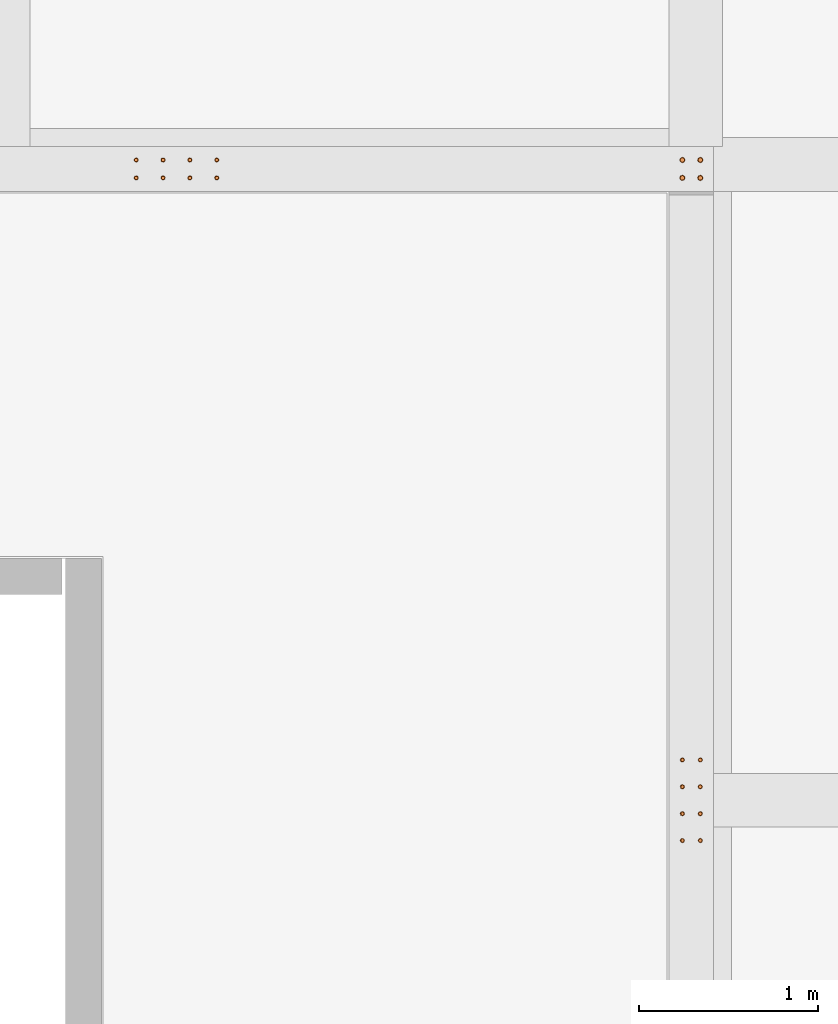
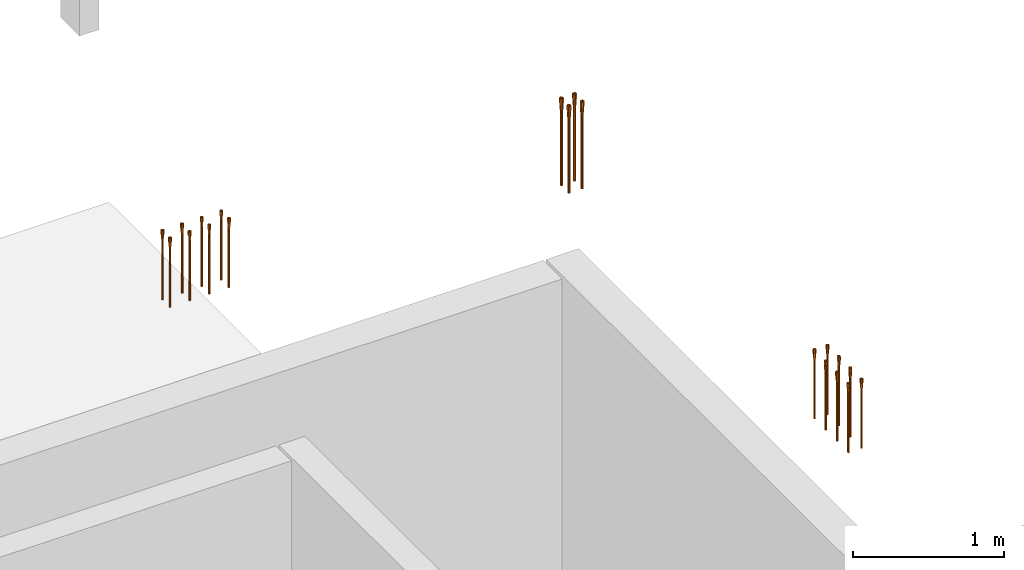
# One storey, part 16 of 16: 20 proxies.
"""IFC2X3 building model written with IfcOpenShell, lengths in millimetres."""

from ifc_helpers import new_model, entity, si_unit, converted_unit, derived_unit, direction, frame, frame_2d, origin, place, context, subcontext, project, spatial, circle, extrude, faceted_brep, source, transform, mapped, type_object, type_shapes, element, save


model = new_model("IFC2X3")

# Units and contexts
model_context = context("Model", 3, precision=0.01, world=origin(), true_north=direction((6.12303176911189e-17, 1.0)))
body_context = subcontext(model_context, "Body", "Model", "MODEL_VIEW")
ifc_project = project(units=[si_unit("LENGTHUNIT", "METRE", prefix="MILLI"), si_unit("AREAUNIT", "SQUARE_METRE"), si_unit("VOLUMEUNIT", "CUBIC_METRE"), converted_unit("PLANEANGLEUNIT", "DEGREE", entity("IfcRatioMeasure", 0.0174532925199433), si_unit("PLANEANGLEUNIT", "RADIAN"), dimensions=[0, 0, 0, 0, 0, 0, 0]), si_unit("MASSUNIT", "GRAM", prefix="KILO"), derived_unit("MASSDENSITYUNIT", [(si_unit("MASSUNIT", "GRAM", prefix="KILO"), 1), (si_unit("LENGTHUNIT", "METRE"), -3)]), si_unit("TIMEUNIT", "SECOND"), si_unit("FREQUENCYUNIT", "HERTZ"), si_unit("THERMODYNAMICTEMPERATUREUNIT", "DEGREE_CELSIUS"), derived_unit("THERMALTRANSMITTANCEUNIT", [(si_unit("MASSUNIT", "GRAM", prefix="KILO"), 1), (si_unit("THERMODYNAMICTEMPERATUREUNIT", "KELVIN"), -1), (si_unit("TIMEUNIT", "SECOND"), -3)]), derived_unit("VOLUMETRICFLOWRATEUNIT", [(si_unit("LENGTHUNIT", "METRE"), 3), (si_unit("TIMEUNIT", "SECOND"), -1)]), si_unit("ELECTRICCURRENTUNIT", "AMPERE"), si_unit("ELECTRICVOLTAGEUNIT", "VOLT"), si_unit("POWERUNIT", "WATT"), si_unit("FORCEUNIT", "NEWTON", prefix="KILO"), si_unit("ILLUMINANCEUNIT", "LUX"), si_unit("LUMINOUSFLUXUNIT", "LUMEN"), si_unit("LUMINOUSINTENSITYUNIT", "CANDELA"), derived_unit("USERDEFINED", [(si_unit("MASSUNIT", "GRAM", prefix="KILO"), -1), (si_unit("LENGTHUNIT", "METRE"), -2), (si_unit("TIMEUNIT", "SECOND"), 3), (si_unit("LUMINOUSFLUXUNIT", "LUMEN"), 1)]), derived_unit("LINEARVELOCITYUNIT", [(si_unit("LENGTHUNIT", "METRE"), 1), (si_unit("TIMEUNIT", "SECOND"), -1)]), si_unit("PRESSUREUNIT", "PASCAL"), derived_unit("USERDEFINED", [(si_unit("LENGTHUNIT", "METRE"), -2), (si_unit("MASSUNIT", "GRAM", prefix="KILO"), 1), (si_unit("TIMEUNIT", "SECOND"), -2)])], contexts=[model_context])

# Site, building, storey
site_placement = place(None, origin())
site = spatial("IfcSite", under=ifc_project, at=site_placement, Name="Default", CompositionType="ELEMENT")
building_placement = place(site_placement, origin())
building = spatial("IfcBuilding", under=site, at=building_placement, Name="niet gebruiken", CompositionType="ELEMENT")
storey_placement = place(building_placement, frame((0.0, 0.0, 183150.0)))
storey = spatial("IfcBuildingStorey", under=building, at=storey_placement, Name="58 achtenvijftigste verdieping", CompositionType="ELEMENT", Elevation=183150.0)

# Proxies
building_element_proxy_type_1 = type_object("IfcBuildingElementProxyType", Name="Ø16/M20x560", PredefinedType="NOTDEFINED")
shared_shape_1 = source(origin(), body_context, "Body", "SolidModel", [
    extrude(circle(Radius=8.0, at=frame_2d((4.22994972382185e-15, -1.29243565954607e-14), x_axis=(1.0, 0.0))), frame((34.9769027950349, 0.0, -560.0)), (0.0, 0.0, 1.0), 489.0),
    extrude(circle(Radius=8.0, at=frame_2d((4.22994972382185e-15, -1.29243565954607e-14), x_axis=(1.0, 0.0))), frame((34.9769027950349, 0.0, -560.0)), (0.0, 0.0, 1.0), 489.0),
    faceted_brep([(30.380708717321, 11.0961940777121, 0.0), (32.6788057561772, 12.0480970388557, 0.0), (34.9769027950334, 13.0, 0.0), (34.9769027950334, 13.0, -33.0), (32.6788057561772, 12.0480970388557, -33.0), (30.380708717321, 11.0961940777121, -33.0), (28.0826116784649, 10.1442911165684, -33.0), (25.7845146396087, 9.1923881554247, -33.0), (25.7845146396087, 9.1923881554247, 0.0), (28.0826116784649, 10.1442911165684, 0.0), (47.0249998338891, 2.29809703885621, 0.0), (47.9769027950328, 0.0, 0.0), (47.9769027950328, 0.0, -33.0), (47.1698993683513, 1.94827861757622, -33.0), (46.0730968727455, 4.59619407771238, -33.0), (45.1211939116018, 6.89429111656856, -33.0), (44.1692909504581, 9.19238815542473, -33.0), (44.1692909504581, 9.19238815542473, 0.0), (45.1211939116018, 6.89429111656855, 0.0), (46.0730968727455, 4.59619407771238, 0.0), (23.5909096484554, 3.89655723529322, -33.0), (21.976902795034, 0.0, -33.0), (21.976902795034, 0.0, 0.0), (22.9288057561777, 2.29809703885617, 0.0), (23.8807087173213, 4.59619407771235, 0.0), (24.832611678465, 6.89429111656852, 0.0), (24.6877121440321, 6.54447269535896, -33.0), (39.5730968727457, 11.0961940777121, 0.0), (41.8711939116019, 10.1442911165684, 0.0), (41.8711939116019, 10.1442911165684, -33.0), (39.5730968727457, 11.0961940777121, -33.0), (37.2749998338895, 12.0480970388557, -33.0), (37.2749998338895, 12.0480970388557, 0.0), (46.3628959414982, -3.89655723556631, 0.0), (45.2660934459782, -6.54447269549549, 0.0), (44.1692909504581, -9.19238815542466, 0.0), (44.1692909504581, -9.19238815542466, -33.0), (45.1211939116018, -6.89429111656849, -33.0), (46.0730968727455, -4.59619407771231, -33.0), (47.0249998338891, -2.29809703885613, -33.0), (30.3807087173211, -11.0961940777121, 0.0), (28.0826116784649, -10.1442911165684, 0.0), (25.7845146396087, -9.19238815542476, 0.0), (25.7845146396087, -9.19238815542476, -33.0), (28.0826116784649, -10.1442911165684, -33.0), (30.3807087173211, -11.0961940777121, -33.0), (32.6788057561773, -12.0480970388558, -33.0), (34.9769027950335, -13.0, -33.0), (34.9769027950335, -13.0, 0.0), (32.6788057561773, -12.0480970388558, 0.0), (37.2749998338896, -12.0480970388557, -33.0), (39.5730968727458, -11.096194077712, -33.0), (41.871193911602, -10.1442911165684, -33.0), (41.871193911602, -10.1442911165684, 0.0), (39.5730968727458, -11.096194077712, 0.0), (37.2749998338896, -12.0480970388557, 0.0), (24.832611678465, -6.89429111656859, 0.0), (23.8807087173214, -4.59619407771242, 0.0), (22.9288057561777, -2.29809703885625, 0.0), (22.7839062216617, -1.94827861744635, -33.0), (23.8807087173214, -4.59619407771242, -33.0), (24.832611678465, -6.89429111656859, -33.0), (24.476902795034, 0.0, -38.0), (29.7269027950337, 9.09326673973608, -38.0), (40.2269027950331, 9.0932667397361, -38.0), (45.4769027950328, 0.0, -38.0), (40.2269027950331, -9.09326673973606, -38.0), (29.7269027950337, -9.09326673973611, -38.0), (29.7269027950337, 9.09326673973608, -71.0), (24.476902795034, 0.0, -71.0), (40.2269027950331, 9.0932667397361, -71.0), (45.4769027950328, 0.0, -71.0), (40.2269027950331, -9.09326673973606, -71.0), (29.7269027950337, -9.09326673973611, -71.0), (34.9769027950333, 0.0, -71.0), (34.9769027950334, 0.0, -33.0), (45.4769027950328, 0.0, -33.0), (40.2269027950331, 9.0932667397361, -33.0), (29.7269027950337, 9.09326673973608, -33.0), (24.476902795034, 0.0, -33.0), (40.2269027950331, -9.09326673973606, -33.0), (29.7269027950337, -9.09326673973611, -33.0), (29.7269027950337, 9.09326673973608, 0.0), (24.476902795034, 0.0, 0.0), (40.2269027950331, 9.0932667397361, 0.0), (45.4769027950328, 0.0, 0.0), (40.2269027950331, -9.09326673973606, 0.0), (29.7269027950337, -9.09326673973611, 0.0)], [[[0, 1, 2, 3, 4, 5, 6, 7, 8, 9]], [[10, 11, 12, 13, 14, 15, 16, 17, 18, 19]], [[20, 21, 22, 23, 24, 25, 8, 7, 26]], [[27, 28, 17, 16, 29, 30, 31, 3, 2, 32]], [[33, 34, 35, 36, 37, 38, 39, 12, 11]], [[40, 41, 42, 43, 44, 45, 46, 47, 48, 49]], [[48, 47, 50, 51, 52, 36, 35, 53, 54, 55]], [[43, 42, 56, 57, 58, 22, 21, 59, 60, 61]], [[62, 21, 20, 26, 7]], [[63, 62, 7]], [[63, 7, 6, 5, 4, 3]], [[64, 3, 31, 30, 29, 16]], [[16, 65, 64]], [[65, 16, 15, 14, 13, 12]], [[3, 64, 63]], [[65, 12, 39, 38, 37, 36]], [[66, 65, 36]], [[66, 36, 52, 51, 50, 47]], [[67, 47, 46, 45, 44, 43]], [[43, 62, 67]], [[62, 43, 61, 60, 59, 21]], [[47, 67, 66]], [[62, 63, 68, 69]], [[63, 64, 70, 68]], [[64, 65, 71, 70]], [[65, 66, 72, 71]], [[66, 67, 73, 72]], [[67, 62, 69, 73]], [[70, 71, 74]], [[74, 68, 70]], [[71, 72, 74]], [[73, 74, 72]], [[74, 73, 69]], [[74, 69, 68]], [[75, 76, 77]], [[77, 78, 75]], [[78, 79, 75]], [[75, 80, 76]], [[79, 81, 75]], [[80, 75, 81]], [[78, 82, 83, 79]], [[78, 77, 84, 82]], [[76, 85, 84, 77]], [[80, 86, 85, 76]], [[80, 81, 87, 86]], [[79, 83, 87, 81]], [[85, 11, 10]], [[85, 10, 19]], [[85, 19, 18]], [[85, 18, 17]], [[85, 17, 84]], [[85, 33, 11]], [[85, 34, 33]], [[85, 35, 34]], [[85, 86, 35]], [[86, 53, 35]], [[86, 54, 53]], [[86, 55, 54]], [[86, 48, 55]], [[48, 86, 87]], [[87, 49, 48]], [[87, 40, 49]], [[87, 41, 40]], [[87, 42, 41]], [[87, 83, 42]], [[83, 56, 42]], [[83, 57, 56]], [[83, 58, 57]], [[83, 22, 58]], [[83, 23, 22]], [[83, 24, 23]], [[83, 25, 24]], [[83, 8, 25]], [[83, 82, 8]], [[82, 84, 2]], [[82, 2, 1]], [[82, 1, 0]], [[82, 0, 9]], [[82, 9, 8]], [[84, 17, 28]], [[84, 28, 27]], [[84, 27, 32]], [[84, 32, 2]]]),
])
type_shapes(building_element_proxy_type_1, [shared_shape_1])
for number, where in (
    (1, (144640.023097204, 24625.0, 4420.0)),
    (2, (144790.023097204, 24625.0, 4420.0)),
    (3, (144640.023097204, 24525.0, 4420.0)),
    (4, (144790.023097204, 24525.0, 4420.0)),
):
    element("IfcBuildingElementProxy", number, at=place(storey_placement, frame(where)), inside=storey, type_object=building_element_proxy_type_1, Name="GM_Stekanker_DEMU_4010 GV:Ø16/M20x560", ObjectType="Ø16/M20x560", context=body_context, shape_type="MappedRepresentation", body=[
        mapped(shared_shape_1, transform((0.0, 0.0, 0.0), scale=1.0)),
    ])
for number, where, z_axis, x_axis in (
    (5, (147575.0, 20940.0230972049, 4420.0), (0.0, 0.0, 1.0), (0.0, 1.0, 0.0)),
    (6, (147575.0, 21090.0230972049, 4420.0), (0.0, 0.0, 1.0), (0.0, 1.0, 0.0)),
    (7, (147675.0, 20940.0230972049, 4420.0), (0.0, 0.0, 1.0), (0.0, 1.0, 0.0)),
    (8, (147675.0, 21090.0230972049, 4420.0), (0.0, 0.0, 1.0), (0.0, 1.0, 0.0)),
):
    element("IfcBuildingElementProxy", number, at=place(storey_placement, frame(where, z_axis=z_axis, x_axis=x_axis)), inside=storey, type_object=building_element_proxy_type_1, Name="GM_Stekanker_DEMU_4010 GV:Ø16/M20x560", ObjectType="Ø16/M20x560", context=body_context, shape_type="MappedRepresentation", body=[
        mapped(shared_shape_1, transform((0.0, 0.0, 0.0), scale=1.0)),
    ])
for number, where in (
    (9, (144940.023097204, 24625.0, 4420.0)),
    (10, (144940.023097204, 24525.0, 4420.0)),
    (11, (144490.023097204, 24625.0, 4420.0)),
    (12, (144490.023097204, 24525.0, 4420.0)),
):
    element("IfcBuildingElementProxy", number, at=place(storey_placement, frame(where)), inside=storey, type_object=building_element_proxy_type_1, Name="GM_Stekanker_DEMU_4010 GV:Ø16/M20x560", ObjectType="Ø16/M20x560", context=body_context, shape_type="MappedRepresentation", body=[
        mapped(shared_shape_1, transform((0.0, 0.0, 0.0), scale=1.0)),
    ])
for number, where, z_axis, x_axis in (
    (13, (147575.0, 21240.0230972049, 4420.0), (0.0, 0.0, 1.0), (0.0, 1.0, 0.0)),
    (14, (147675.0, 21240.0230972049, 4420.0), (0.0, 0.0, 1.0), (0.0, 1.0, 0.0)),
    (15, (147575.0, 20790.0230972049, 4420.0), (0.0, 0.0, 1.0), (0.0, 1.0, 0.0)),
    (16, (147675.0, 20790.0230972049, 4420.0), (0.0, 0.0, 1.0), (0.0, 1.0, 0.0)),
):
    element("IfcBuildingElementProxy", number, at=place(storey_placement, frame(where, z_axis=z_axis, x_axis=x_axis)), inside=storey, type_object=building_element_proxy_type_1, Name="GM_Stekanker_DEMU_4010 GV:Ø16/M20x560", ObjectType="Ø16/M20x560", context=body_context, shape_type="MappedRepresentation", body=[
        mapped(shared_shape_1, transform((0.0, 0.0, 0.0), scale=1.0)),
    ])
building_element_proxy_type_2 = type_object("IfcBuildingElementProxyType", Name="Ø20/M24x705", PredefinedType="NOTDEFINED")
shared_shape_2 = source(origin(), body_context, "Body", "SolidModel", [
    extrude(circle(Radius=10.0, at=frame_2d((0.0, -1.61554457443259e-14), x_axis=(1.0, 0.0))), frame((34.9769027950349, 0.0, -705.0)), (0.0, 0.0, 1.0), 615.0),
    extrude(circle(Radius=10.0, at=frame_2d((0.0, -1.61554457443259e-14), x_axis=(1.0, 0.0))), frame((34.9769027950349, 0.0, -705.0)), (0.0, 0.0, 1.0), 615.0),
    faceted_brep([(29.3200485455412, 13.6568542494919, 0.0), (32.1484756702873, 14.8284271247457, 0.0), (34.9769027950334, 16.0, 0.0), (34.9769027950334, 16.0, -38.0), (32.1484756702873, 14.8284271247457, -38.0), (29.3200485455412, 13.6568542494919, -38.0), (26.4916214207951, 12.4852813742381, -38.0), (23.663194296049, 11.3137084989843, -38.0), (23.663194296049, 11.3137084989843, 0.0), (26.4916214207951, 12.4852813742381, 0.0), (49.805329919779, 2.82842712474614, 0.0), (50.9769027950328, 0.0, 0.0), (50.9769027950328, 0.0, -38.0), (50.0199937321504, 2.31018283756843, -38.0), (49.7680552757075, 2.91841607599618, -38.0), (48.6337570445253, 5.65685424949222, -38.0), (48.5592077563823, 5.83683215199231, -38.0), (47.4621841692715, 8.48528137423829, -38.0), (46.2906112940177, 11.3137084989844, -38.0), (46.2906112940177, 11.3137084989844, 0.0), (47.4621841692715, 8.48528137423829, 0.0), (48.6337570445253, 5.65685424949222, 0.0), (21.3200485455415, 5.65685424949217, 0.0), (22.4916214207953, 8.48528137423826, 0.0), (22.4916214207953, 8.48528137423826, -38.0), (22.2769576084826, 7.96703708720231, -38.0), (21.3200485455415, 5.65685424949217, -38.0), (20.8907209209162, 4.62036567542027, -38.0), (20.1484756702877, 2.82842712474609, -38.0), (18.976902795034, 0.0, -38.0), (18.976902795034, 0.0, 0.0), (20.1484756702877, 2.82842712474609, 0.0), (40.6337570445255, 13.6568542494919, 0.0), (43.4621841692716, 12.4852813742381, 0.0), (43.4621841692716, 12.4852813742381, -38.0), (40.6337570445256, 13.6568542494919, -38.0), (37.8053299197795, 14.8284271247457, -38.0), (37.8053299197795, 14.8284271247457, 0.0), (49.063084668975, -4.62036567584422, 0.0), (47.6768479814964, -7.96703708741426, 0.0), (46.2906112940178, -11.3137084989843, 0.0), (46.2906112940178, -11.3137084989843, -38.0), (47.4621841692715, -8.48528137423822, -38.0), (48.6337570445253, -5.65685424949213, -38.0), (49.8053299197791, -2.82842712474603, -38.0), (29.3200485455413, -13.6568542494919, 0.0), (26.4916214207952, -12.4852813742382, 0.0), (23.6631942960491, -11.3137084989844, 0.0), (23.6631942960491, -11.3137084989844, -38.0), (26.4916214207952, -12.4852813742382, -38.0), (29.3200485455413, -13.6568542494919, -38.0), (32.1484756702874, -14.8284271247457, -38.0), (34.9769027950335, -16.0, -38.0), (34.9769027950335, -16.0, 0.0), (32.1484756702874, -14.8284271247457, 0.0), (37.8053299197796, -14.8284271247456, -38.0), (40.6337570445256, -13.6568542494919, -38.0), (43.4621841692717, -12.4852813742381, -38.0), (43.4621841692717, -12.4852813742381, 0.0), (40.6337570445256, -13.6568542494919, 0.0), (37.8053299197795, -14.8284271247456, 0.0), (22.4916214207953, -8.48528137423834, 0.0), (21.3200485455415, -5.65685424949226, 0.0), (20.1484756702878, -2.82842712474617, 0.0), (19.9338118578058, -2.31018283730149, -38.0), (20.1857498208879, -2.91841488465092, -38.0), (21.3200485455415, -5.65685424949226, -38.0), (22.4916214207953, -8.48528137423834, -38.0), (25.7845146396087, 9.19238815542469, -52.0), (24.8628969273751, 6.96740617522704, -52.0), (23.9412792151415, 4.7424241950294, -52.0), (22.9590910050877, 2.3712120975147, -52.0), (21.976902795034, 0.0, -52.0), (44.1692909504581, 9.19238815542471, -52.0), (47.9769027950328, 0.0, -52.0), (46.994714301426, 2.37121278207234, -52.0), (46.0730968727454, 4.59619407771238, -52.0), (45.1211939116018, 6.89429111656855, -52.0), (34.9769027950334, 13.0, -52.0), (32.6788057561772, 12.0480970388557, -52.0), (30.380708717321, 11.096194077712, -52.0), (28.0826116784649, 10.1442911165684, -52.0), (37.2749998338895, 12.0480970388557, -52.0), (41.8711939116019, 10.1442911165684, -52.0), (39.5730968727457, 11.0961940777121, -52.0), (44.1692909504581, -9.19238815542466, -52.0), (45.0909086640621, -6.96740617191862, -52.0), (45.3722781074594, -6.28812024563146, -52.0), (46.0125263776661, -4.74242418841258, -52.0), (46.5752652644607, -3.38385233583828, -52.0), (46.9947145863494, -2.37121209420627, -52.0), (28.0826116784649, -10.1442911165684, -52.0), (30.3807087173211, -11.0961940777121, -52.0), (32.6788057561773, -12.0480970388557, -52.0), (34.9769027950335, -13.0, -52.0), (25.7845146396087, -9.19238815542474, -52.0), (37.2749998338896, -12.0480970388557, -52.0), (39.5730968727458, -11.096194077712, -52.0), (41.871193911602, -10.1442911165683, -52.0), (22.9288057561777, -2.29809703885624, -52.0), (23.8807087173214, -4.59619407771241, -52.0), (24.8326116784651, -6.89429111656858, -52.0), (32.6788057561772, 12.0480970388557, -90.0), (30.380708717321, 11.096194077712, -90.0), (28.0826116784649, 10.1442911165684, -90.0), (25.7845146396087, 9.19238815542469, -90.0), (34.9769027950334, 13.0, -90.0), (47.9769027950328, 0.0, -90.0), (47.2760840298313, 1.691926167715, -90.0), (46.0730968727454, 4.59619407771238, -90.0), (45.1211939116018, 6.89429111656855, -90.0), (44.1692909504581, 9.19238815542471, -90.0), (23.3785403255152, 3.38385233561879, -90.0), (21.976902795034, 0.0, -90.0), (24.5815274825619, 6.28812024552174, -90.0), (41.8711939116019, 10.1442911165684, -90.0), (39.5730968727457, 11.0961940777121, -90.0), (37.2749998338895, 12.0480970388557, -90.0), (46.0730968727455, -4.5961940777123, -90.0), (47.0249998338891, -2.29809703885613, -90.0), (44.1692909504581, -9.19238815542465, -90.0), (45.1211939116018, -6.89429111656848, -90.0), (25.7845146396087, -9.19238815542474, -90.0), (28.0826116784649, -10.1442911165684, -90.0), (30.3807087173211, -11.0961940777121, -90.0), (32.6788057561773, -12.0480970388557, -90.0), (34.9769027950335, -13.0, -90.0), (37.2749998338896, -12.0480970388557, -90.0), (39.5730968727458, -11.096194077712, -90.0), (41.871193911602, -10.1442911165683, -90.0), (22.6777215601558, -1.6919261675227, -90.0), (23.8807087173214, -4.59619407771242, -90.0), (24.8326116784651, -6.89429111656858, -90.0), (34.9769027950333, 0.0, -90.0), (34.9769027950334, 0.0, -38.0), (47.9769027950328, 0.0, -38.0), (47.2760840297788, 1.69192616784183, -38.0), (46.0730968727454, 4.59619407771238, -38.0), (45.1211939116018, 6.89429111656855, -38.0), (44.1692909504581, 9.19238815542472, -38.0), (41.8711939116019, 10.1442911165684, -38.0), (39.5730968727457, 11.0961940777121, -38.0), (37.2749998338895, 12.0480970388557, -38.0), (34.9769027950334, 13.0, -38.0), (32.6788057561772, 12.0480970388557, -38.0), (30.380708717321, 11.096194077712, -38.0), (28.0826116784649, 10.1442911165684, -38.0), (25.7845146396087, 9.19238815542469, -38.0), (24.5815274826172, 6.28812024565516, -38.0), (23.3785403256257, 3.38385233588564, -38.0), (21.976902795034, 0.0, -38.0), (22.6777215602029, -1.69192616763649, -38.0), (47.0249998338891, -2.29809703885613, -38.0), (46.0730968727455, -4.59619407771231, -38.0), (45.1211939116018, -6.89429111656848, -38.0), (44.1692909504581, -9.19238815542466, -38.0), (41.871193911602, -10.1442911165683, -38.0), (39.5730968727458, -11.096194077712, -38.0), (37.2749998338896, -12.0480970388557, -38.0), (34.9769027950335, -13.0, -38.0), (23.8807087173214, -4.59619407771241, -38.0), (24.8326116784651, -6.89429111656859, -38.0), (25.7845146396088, -9.19238815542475, -38.0), (28.0826116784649, -10.1442911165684, -38.0), (30.3807087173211, -11.0961940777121, -38.0), (32.6788057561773, -12.0480970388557, -38.0), (32.6788057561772, 12.0480970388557, 0.0), (30.380708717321, 11.096194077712, 0.0), (28.0826116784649, 10.1442911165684, 0.0), (25.7845146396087, 9.19238815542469, 0.0), (34.9769027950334, 13.0, 0.0), (47.9769027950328, 0.0, 0.0), (47.0249998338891, 2.29809703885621, 0.0), (46.0730968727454, 4.59619407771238, 0.0), (45.1211939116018, 6.89429111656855, 0.0), (44.1692909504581, 9.19238815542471, 0.0), (24.832611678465, 6.89429111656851, 0.0), (23.8807087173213, 4.59619407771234, 0.0), (22.9288057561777, 2.29809703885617, 0.0), (21.976902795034, 0.0, 0.0), (37.2749998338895, 12.0480970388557, 0.0), (41.8711939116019, 10.1442911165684, 0.0), (39.5730968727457, 11.0961940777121, 0.0), (44.1692909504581, -9.19238815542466, 0.0), (45.3722781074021, -6.28812024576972, 0.0), (46.5752652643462, -3.38385233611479, 0.0), (32.6788057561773, -12.0480970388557, 0.0), (34.9769027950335, -13.0, 0.0), (25.7845146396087, -9.19238815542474, 0.0), (28.0826116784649, -10.1442911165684, 0.0), (30.3807087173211, -11.0961940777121, 0.0), (37.2749998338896, -12.0480970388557, 0.0), (39.5730968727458, -11.096194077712, 0.0), (41.871193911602, -10.1442911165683, 0.0), (22.9288057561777, -2.29809703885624, 0.0), (23.8807087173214, -4.59619407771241, 0.0), (24.8326116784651, -6.89429111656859, 0.0)], [[[0, 1, 2, 3, 4, 5, 6, 7, 8, 9]], [[10, 11, 12, 13, 14, 15, 16, 17, 18, 19, 20, 21]], [[22, 23, 8, 7, 24, 25, 26, 27, 28, 29, 30, 31]], [[32, 33, 19, 18, 34, 35, 36, 3, 2, 37]], [[38, 39, 40, 41, 42, 43, 44, 12, 11]], [[45, 46, 47, 48, 49, 50, 51, 52, 53, 54]], [[53, 52, 55, 56, 57, 41, 40, 58, 59, 60]], [[48, 47, 61, 62, 63, 30, 29, 64, 65, 66, 67]], [[7, 68, 69, 70, 71, 72, 29, 28, 27, 26, 25, 24]], [[73, 18, 17, 16, 15, 14, 13, 12, 74, 75, 76, 77]], [[4, 3, 78, 79, 80, 81, 68, 7, 6, 5]], [[82, 78, 3, 36, 35, 34, 18, 73, 83, 84]], [[41, 85, 86, 87, 88, 89, 90, 74, 12, 44, 43, 42]], [[91, 92, 93, 94, 52, 51, 50, 49, 48, 95]], [[55, 52, 94, 96, 97, 98, 85, 41, 57, 56]], [[99, 100, 101, 95, 48, 67, 66, 65, 64, 29, 72]], [[102, 103, 104, 105, 68, 81, 80, 79, 78, 106]], [[75, 74, 107, 108, 109, 110, 111, 73, 77, 76]], [[112, 113, 72, 71, 70, 69, 68, 105, 114]], [[84, 83, 73, 111, 115, 116, 117, 106, 78, 82]], [[118, 119, 107, 74, 90, 89, 88, 87, 86, 85, 120, 121]], [[92, 91, 95, 122, 123, 124, 125, 126, 94, 93]], [[94, 126, 127, 128, 129, 120, 85, 98, 97, 96]], [[122, 95, 101, 100, 99, 72, 113, 130, 131, 132]], [[133, 111, 110]], [[133, 110, 109]], [[133, 109, 108]], [[133, 108, 107]], [[133, 107, 119]], [[133, 115, 111]], [[133, 116, 115]], [[133, 117, 116]], [[133, 106, 117]], [[133, 102, 106]], [[133, 103, 102]], [[133, 104, 103]], [[133, 105, 104]], [[133, 114, 105]], [[133, 112, 114]], [[133, 113, 112]], [[133, 119, 118]], [[133, 118, 121]], [[133, 121, 120]], [[133, 120, 129]], [[133, 129, 128]], [[133, 128, 127]], [[133, 127, 126]], [[133, 126, 125]], [[133, 130, 113]], [[133, 131, 130]], [[133, 132, 131]], [[133, 122, 132]], [[133, 125, 124]], [[133, 124, 123]], [[133, 123, 122]], [[134, 135, 136]], [[134, 136, 137]], [[134, 137, 138]], [[134, 138, 139]], [[134, 139, 140]], [[134, 140, 141]], [[134, 141, 142]], [[134, 142, 143]], [[134, 143, 144]], [[134, 144, 145]], [[134, 145, 146]], [[134, 146, 147]], [[134, 147, 148]], [[134, 148, 149]], [[134, 149, 150]], [[134, 150, 151]], [[134, 152, 135]], [[134, 153, 152]], [[134, 154, 153]], [[134, 155, 154]], [[134, 156, 155]], [[134, 157, 156]], [[134, 158, 157]], [[134, 159, 158]], [[134, 151, 160]], [[134, 160, 161]], [[134, 161, 162]], [[134, 162, 163]], [[134, 163, 164]], [[134, 164, 165]], [[134, 165, 159]], [[166, 167, 168, 169, 147, 146, 145, 144, 143, 170]], [[136, 135, 171, 172, 173, 174, 175, 139, 138, 137]], [[148, 147, 169, 176, 177, 178, 179, 150, 149]], [[180, 170, 143, 142, 141, 140, 139, 175, 181, 182]], [[153, 154, 155, 183, 184, 185, 171, 135, 152]], [[186, 187, 159, 165, 164, 163, 162, 188, 189, 190]], [[158, 159, 187, 191, 192, 193, 183, 155, 156, 157]], [[161, 160, 151, 150, 179, 194, 195, 196, 188, 162]], [[171, 11, 10]], [[171, 10, 21]], [[171, 21, 20]], [[171, 20, 19]], [[19, 172, 171]], [[171, 38, 11]], [[171, 39, 38]], [[171, 40, 39]], [[40, 171, 185]], [[40, 185, 184]], [[40, 184, 183]], [[183, 58, 40]], [[183, 59, 58]], [[183, 60, 59]], [[183, 53, 60]], [[53, 183, 193]], [[53, 193, 192]], [[53, 192, 191]], [[53, 191, 187]], [[53, 187, 186]], [[53, 186, 190]], [[53, 190, 189]], [[53, 189, 188]], [[188, 54, 53]], [[188, 45, 54]], [[188, 46, 45]], [[188, 47, 46]], [[47, 188, 196]], [[47, 196, 195]], [[47, 195, 194]], [[47, 194, 179]], [[179, 61, 47]], [[179, 62, 61]], [[179, 63, 62]], [[179, 30, 63]], [[179, 31, 30]], [[179, 22, 31]], [[179, 23, 22]], [[179, 8, 23]], [[8, 179, 178]], [[8, 178, 177]], [[8, 177, 176]], [[8, 176, 169]], [[169, 9, 8]], [[169, 0, 9]], [[169, 1, 0]], [[169, 2, 1]], [[2, 169, 168]], [[2, 168, 167]], [[2, 167, 166]], [[2, 166, 170]], [[2, 170, 180]], [[2, 180, 182]], [[2, 182, 181]], [[2, 181, 175]], [[175, 19, 33]], [[19, 175, 174]], [[175, 33, 32]], [[175, 32, 37]], [[175, 37, 2]], [[19, 174, 173]], [[19, 173, 172]]]),
])
type_shapes(building_element_proxy_type_2, [shared_shape_2])
for number, where in (
    (17, (147540.023097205, 24625.0, 4420.0)),
    (18, (147640.023097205, 24625.0, 4420.0)),
    (19, (147540.023097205, 24525.0, 4420.0)),
    (20, (147640.023097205, 24525.0, 4420.0)),
):
    element("IfcBuildingElementProxy", number, at=place(storey_placement, frame(where)), inside=storey, type_object=building_element_proxy_type_2, Name="GM_Stekanker_DEMU_4010 GV:Ø20/M24x705", ObjectType="Ø20/M24x705", context=body_context, shape_type="MappedRepresentation", body=[
        mapped(shared_shape_2, transform((0.0, 0.0, 0.0), scale=1.0)),
    ])

save(model, "model.ifc")
